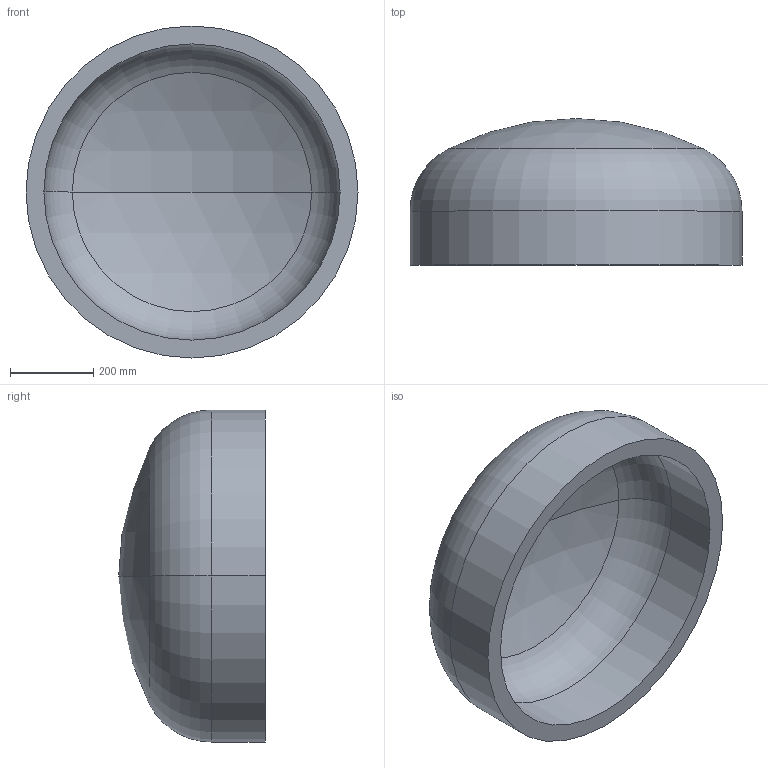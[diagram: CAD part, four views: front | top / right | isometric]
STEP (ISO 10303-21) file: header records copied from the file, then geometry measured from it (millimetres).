
FILE_DESCRIPTION (( 'STEP AP203' ), '1' );
FILE_NAME ('DIN 28013 Korbbogenform_-_Boden DIN 28013 - 800 x 130 - I - s=43.step', '2016-07-01T08:17:14', ( '' ), ( '' ), 'SwSTEP 2.0', 'SolidWorks 2013', '' );
FILE_SCHEMA (( 'CONFIG_CONTROL_DESIGN' ));
Length unit declared in the file: millimetre
Products named in the file (1): DIN 28013 Korbbogenform_-_Boden DIN 28013 - 800 x 130 - I - s=43
Bounding box: 800 x 353.22 x 800 mm (x, y, z)
Volume: 41321254.2 mm3; surface area: 2028052.9 mm2
Topology: 1 solids, 1 shells, 13 faces, 24 edges, 14 vertices
Faces by surface type: torus 4, cylinder 4, sphere 4, plane 1
Entity records: 407 total; most frequent: DIRECTION 72, CARTESIAN_POINT 52, ORIENTED_EDGE 48, AXIS2_PLACEMENT_3D 34, EDGE_CURVE 24, CIRCLE 20, EDGE_LOOP 14, VERTEX_POINT 14
